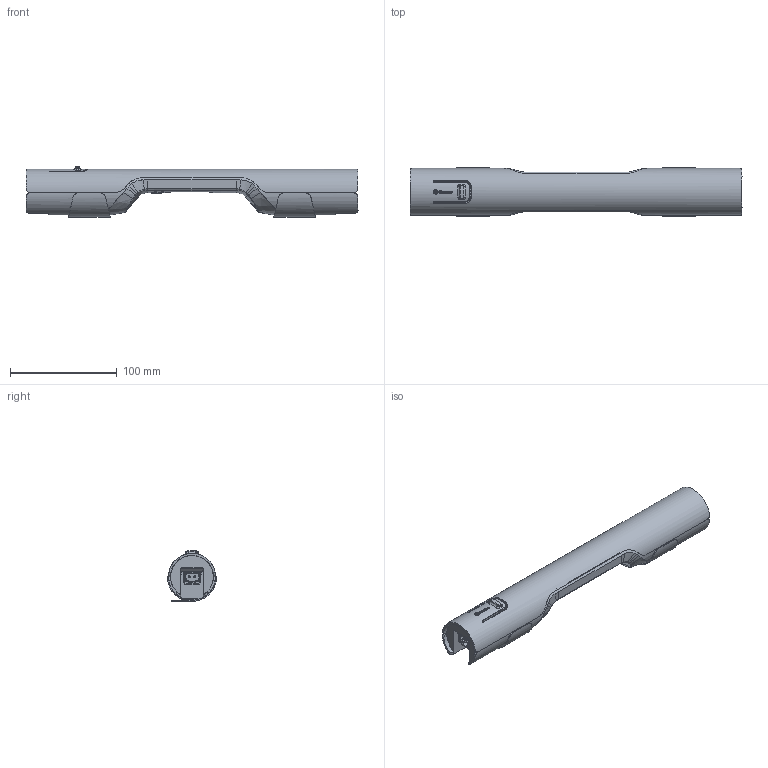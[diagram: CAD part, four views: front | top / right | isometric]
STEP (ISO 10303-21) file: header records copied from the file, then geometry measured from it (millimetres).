
FILE_DESCRIPTION(/* description */ ('Unknown'),/* implementation_level */ '2;1');
FILE_NAME(/* name */ '7L.4X.0.Y.1200',/* time_stamp */ '2019-11-04T09:58:08+01:00',/* author */ ('Unknown'),/* organization */ ('Unknown'),/* preprocessor_version */ 'ST-DEVELOPER v16.7',/* originating_system */ 'DEX',/* authorisation */ $);
FILE_SCHEMA (('AUTOMOTIVE_DESIGN {1 0 10303 214 3 1 1}'));
Products named in the file (1): 7L.4X.0.Y.1200-Pulsante Connettore - pelle x catalogo new
Bounding box: 310.57 x 46 x 47.47 mm (x, y, z)
Surface area: 77326.1 mm2 (no closed solid volume)
Topology: 0 solids, 33 shells, 1626 faces, 5022 edges, 3438 vertices
Faces by surface type: plane 1263, cylinder 186, bspline 155, torus 12, cone 8, sphere 2
Full cylindrical faces by diameter (mm): 1.75 x2, 2 x4, 3.3 x2, 4 x2, 4.2 x2, 4.263 x1
Entity records: 65111 total; most frequent: CARTESIAN_POINT 21934, ORIENTED_EDGE 9227, DIRECTION 6666, EDGE_CURVE 4995, VERTEX_POINT 3430, LINE 3124, VECTOR 3124, AXIS2_PLACEMENT_3D 1771
